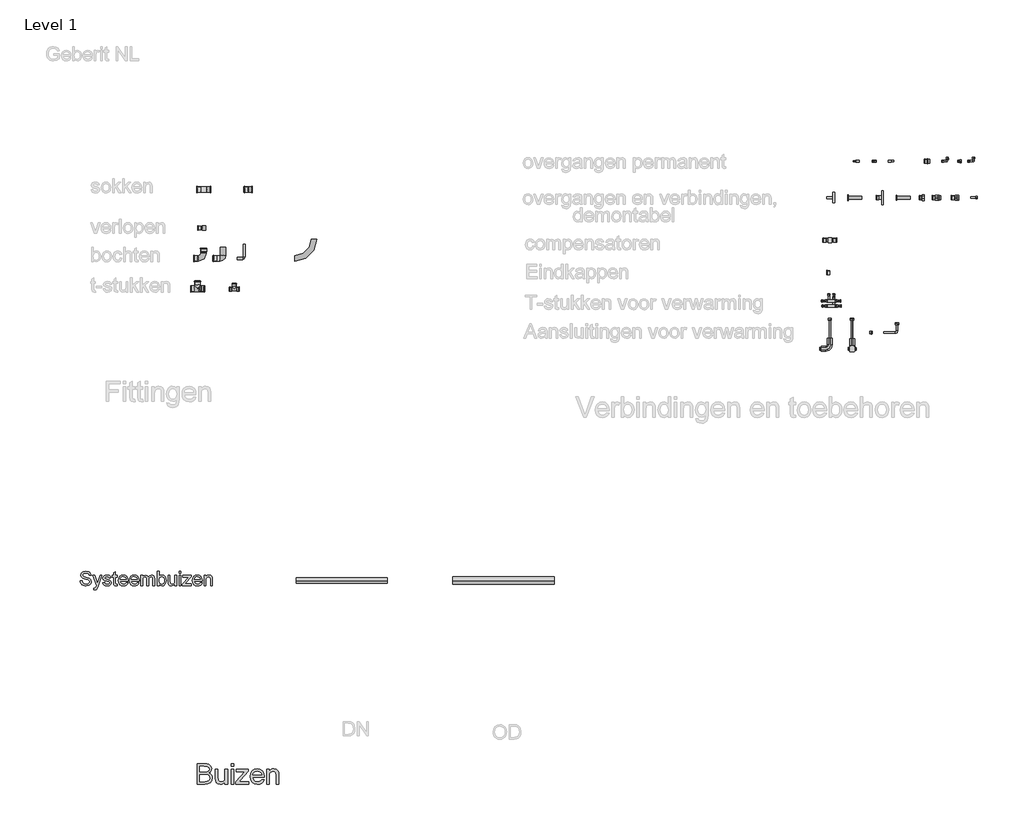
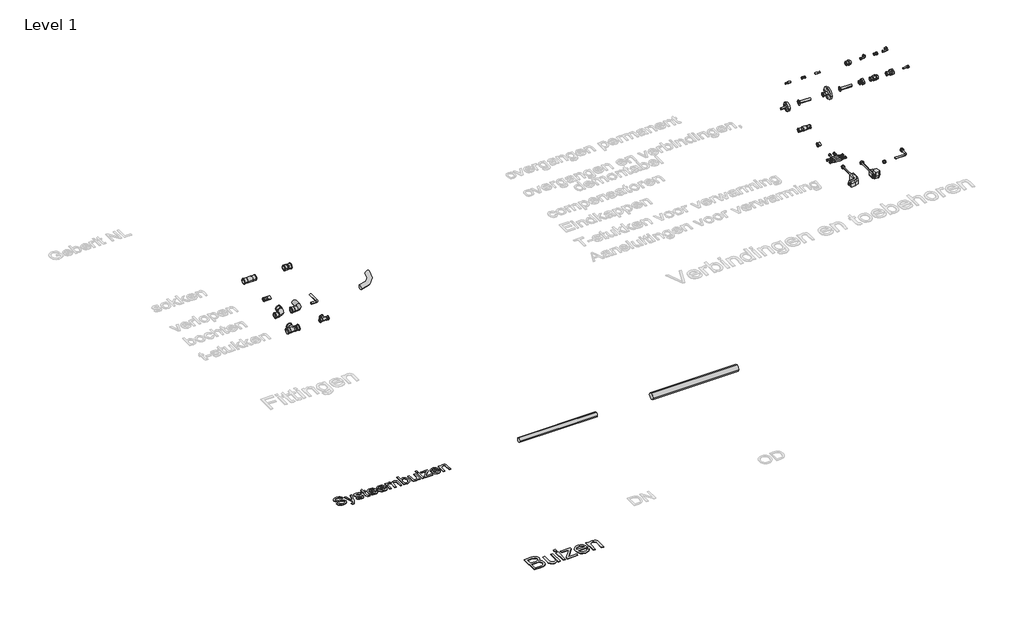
# One storey, part 1 of 8: 30 pipe fittings, 3 pipe segments, 2 proxies.
"""IFC4 building model written with IfcOpenShell, lengths in millimetres."""

from ifc_helpers import new_model, si_unit, point, frame, frame_2d, origin, origin_with_axes, place, context, project, spatial, polyline, circle_curve, trimmed, segment, composite_curve, outline, extrude, transform, mapped, element, save
from components import pipe_fitting_f131157e, pipe_fitting_ef4b92c7, pipe_fitting_1b7e7cd5, pipe_fitting_ae78dee2, pipe_fitting_d829275a, pipe_fitting_d16b05df, pipe_fitting_df6c98cd, pipe_fitting_f14cd62b, pipe_fitting_d1afa636, pipe_fitting_c2962759, pipe_fitting_58cf78d7, pipe_fitting_7e052b8f, pipe_fitting_bf6d9b78, pipe_fitting_812e0acf, pipe_fitting_fd989550, pipe_fitting_7fbc6128, pipe_fitting_85b2fc61, pipe_fitting_1523a521, pipe_fitting_2e0e9b0a, pipe_fitting_d5600d2a, pipe_fitting_86d36912, pipe_fitting_14417a9a, pipe_fitting_3b2257b0, pipe_fitting_caa33bd4, pipe_fitting_6f0e400b, pipe_fitting_93ddfdb1, pipe_fitting_02f2142c, pipe_fitting_28b5c15c, pipe_fitting_a9847738, pipe_fitting_fbca41b0, pipe_fitting_a43a226b, dn10_50_d12_54_8f782e33

model = new_model("IFC4")

# Units and contexts
model_context = context("Model", 3, world=origin())
ifc_project = project(units=[si_unit("LENGTHUNIT", "METRE", prefix="MILLI")], contexts=[model_context])

# Site, building, storey
site = spatial("IfcSite", under=ifc_project)
building = spatial("IfcBuilding", under=site)
storey = spatial("IfcBuildingStorey", under=building, Name="Level 1", Elevation=0.0)

# Proxies
placement = place(None, origin())
element("IfcBuildingElementProxy", 1, Name="medium", ObjectType="medium", at=placement, inside=storey, context=model_context, shape_type="SweptSolid", body=[
    extrude(outline(polyline([(-587.7503667, -500.1108057), (-587.7503667, -299.1981854), (-511.0837589, -299.1981854), (-489.9979892, -300.6758447), (-473.5352699, -305.1088227), (-460.9169175, -312.6074841), (-451.3642483, -323.2821933), (-445.3493777, -335.8392321), (-443.3444208, -348.984882), (-445.0305466, -361.0820683), (-450.0889241, -372.4557533), (-458.5563413, -382.4069613), (-470.4695866, -390.2367164), (-456.2386848, -397.6679327), (-445.7233911, -408.9741727), (-439.2302738, -423.4074097), (-437.0659014, -440.2196168), (-442.9765388, -467.2221553), (-457.6182422, -486.4501209), (-479.4704327, -496.6527149), (-511.6723701, -500.1108057), (-587.7503667, -500.1108057)]), holes=[polyline([(-562.6362891, -474.9967281), (-511.1328098, -474.9967281), (-492.4934554, -474.0157095), (-476.7235805, -468.5465305), (-466.2757319, -457.3874433), (-462.179979, -440.4648715), (-466.9869704, -420.9426003), (-473.2838839, -413.8853974), (-482.5606415, -409.2930038), (-513.5853564, -405.9330149), (-562.6362891, -405.9330149), (-562.6362891, -474.9967281)]), polyline([(-562.6362891, -380.8189374), (-516.7736671, -380.8189374), (-489.9918578, -378.6606963), (-473.8786264, -369.3655446), (-468.4584984, -353.0070585), (-473.5107444, -336.624047), (-487.9807696, -326.9364878), (-520.2562833, -324.3122629), (-562.6362891, -324.3122629), (-562.6362891, -380.8189374)])]), origin_with_axes(), (0.0, 0.0, 1.0), 5.0),
    extrude(outline(polyline([(-311.4955137, -500.1108057), (-311.4955137, -474.7514735), (-320.582199, -487.2196074), (-331.1649378, -496.1254174), (-343.2437299, -501.4689034), (-356.8185756, -503.2500653), (-380.4365996, -498.2468702), (-396.7215093, -485.6898314), (-404.2017765, -467.1976298), (-405.6733045, -443.8493859), (-405.6733045, -352.5656001), (-380.559227, -352.5656001), (-380.559227, -432.0281111), (-379.0386481, -457.6326979), (-375.3782222, -466.1736916), (-369.1058342, -472.6668088), (-350.3929034, -478.1359878), (-329.4236296, -472.5441815), (-321.066577, -465.9406997), (-315.5667412, -457.3138669), (-311.4955137, -429.3303098), (-311.4955137, -352.5656001), (-286.3814362, -352.5656001), (-286.3814362, -500.1108057), (-311.4955137, -500.1108057)])), origin_with_axes(), (0.0, 0.0, 1.0), 5.0),
    extrude(outline(polyline([(-251.8495796, -324.3122629), (-251.8495796, -299.1981854), (-226.7355021, -299.1981854), (-226.7355021, -324.3122629), (-251.8495796, -324.3122629)])), origin_with_axes(), (0.0, 0.0, 1.0), 5.0),
    extrude(outline(polyline([(-251.8495796, -500.1108057), (-251.8495796, -352.5656001), (-226.7355021, -352.5656001), (-226.7355021, -500.1108057), (-251.8495796, -500.1108057)])), origin_with_axes(), (0.0, 0.0, 1.0), 5.0),
    extrude(outline(polyline([(-204.7606842, -500.1108057), (-204.7606842, -476.4682561), (-118.0876862, -377.6796777), (-143.7413239, -377.6796777), (-198.4821648, -377.6796777), (-198.4821648, -352.5656001), (-82.3295562, -352.5656001), (-82.3295562, -373.9027558), (-159.1923677, -461.5567726), (-170.9645916, -474.9967281), (-141.9264394, -474.9967281), (-79.1902965, -474.9967281), (-79.1902965, -500.1108057), (-204.7606842, -500.1108057)])), origin_with_axes(), (0.0, 0.0, 1.0), 5.0),
    extrude(outline(polyline([(49.2250453, -456.16117), (73.8486135, -459.3004297), (64.976526, -477.8539449), (50.8192006, -491.7230962), (31.6954682, -500.3683231), (7.9241599, -503.2500653), (-21.5431879, -498.277527), (-44.2169815, -483.3599121), (-58.6747439, -459.4659766), (-63.4939981, -427.5644762), (-58.625693, -394.5899867), (-44.0207778, -369.9296303), (-21.6535525, -354.5521629), (6.5016829, -349.4263404), (33.7801328, -354.5399002), (55.577141, -369.8805794), (69.8693566, -394.4918848), (74.6334284, -427.4173234), (74.4862756, -434.1863521), (-38.3799205, -434.1863521), (-34.0327816, -452.9851221), (-23.9344209, -466.8052224), (-9.3601625, -475.3032964), (8.4146693, -478.1359878), (33.0382375, -472.887538), (42.1862364, -466.0817211), (49.2250453, -456.16117)]), holes=[polyline([(-38.3799205, -409.0722746), (49.5193509, -409.0722746), (46.1225738, -395.8039973), (39.4639097, -386.3126418), (24.8222062, -377.4834739), (6.403581, -374.540418), (-10.5251221, -376.8887314), (-24.523032, -383.9336716), (-34.2535108, -394.9149491), (-38.3799205, -409.0722746)])]), origin_with_axes(), (0.0, 0.0, 1.0), 5.0),
    extrude(outline(polyline([(99.7475059, -500.1108057), (99.7475059, -352.5656001), (124.8615835, -352.5656001), (124.8615835, -373.1669919), (133.5865181, -362.7804569), (144.0650236, -355.3615033), (156.2971, -350.9101311), (170.2827471, -349.4263404), (193.9988731, -354.2088064), (210.1856809, -366.7658451), (217.714999, -385.2335213), (219.0393742, -409.513733), (219.0393742, -500.1108057), (193.9252967, -500.1108057), (193.9252967, -412.8982473), (191.0312917, -390.6781748), (180.8041722, -378.9304764), (163.5627694, -374.540418), (148.8536209, -377.0052273), (136.3149762, -384.3996554), (127.7249317, -398.6857396), (124.8615835, -421.8255171), (124.8615835, -500.1108057), (99.7475059, -500.1108057)])), origin_with_axes(), (0.0, 0.0, 1.0), 5.0),
])
element("IfcBuildingElementProxy", 2, Name="small", ObjectType="small", at=placement, inside=storey, context=model_context, shape_type="SweptSolid", body=[
    extrude(outline(polyline([(-1740.3989931, 1506.8471385), (-1722.8191388, 1506.8471385), (-1717.1537561, 1489.2501164), (-1703.316488, 1478.1253648), (-1682.2343971, 1473.8849117), (-1663.8648228, 1477.0952953), (-1652.0018548, 1485.919558), (-1648.1047582, 1497.7138548), (-1651.0232887, 1508.6840959), (-1662.9720959, 1516.6671352), (-1688.5693251, 1523.3797553), (-1716.1236865, 1532.0495077), (-1731.0768634, 1545.1313914), (-1736.0040296, 1562.6082388), (-1729.9094512, 1582.5057496), (-1722.411403, 1590.6432993), (-1712.1064151, 1596.5490316), (-1686.0456546, 1601.3388552), (-1658.2337758, 1596.3258499), (-1647.5725556, 1590.1368485), (-1639.6925232, 1581.5958548), (-1634.7052696, 1571.2350715), (-1632.7223857, 1559.5867013), (-1650.30224, 1559.5867013), (-1653.5297913, 1570.0762433), (-1660.2595793, 1577.6472547), (-1670.774873, 1582.2310644), (-1685.3589416, 1583.7590009), (-1700.2863666, 1582.2482322), (-1710.5269751, 1577.715926), (-1716.4498752, 1571.0462255), (-1718.4241753, 1563.1232736), (-1712.8274639, 1550.9341168), (-1684.122858, 1541.1141201), (-1653.0147565, 1532.2898573), (-1636.0014405, 1518.0405613), (-1630.5249039, 1498.1602183), (-1632.100052, 1487.3230279), (-1636.8254962, 1477.1296309), (-1644.5080985, 1468.3568716), (-1654.9547209, 1461.7815941), (-1681.5476841, 1456.3050574), (-1698.771306, 1457.7814905), (-1712.9476386, 1462.2107897), (-1724.2397765, 1469.6101229), (-1732.8108138, 1479.9966579), (-1738.3131022, 1492.649346), (-1740.3989931, 1506.8471385)])), origin_with_axes(), (0.0, 0.0, 1.0), 5.0),
    extrude(outline(polyline([(-1606.3526043, 1418.9478671), (-1608.5500861, 1435.875344), (-1599.6228163, 1434.3302396), (-1591.2792527, 1436.270204), (-1586.1632404, 1441.6780693), (-1581.356249, 1454.6226104), (-1579.9828229, 1458.8802314), (-1617.3400132, 1561.7841831), (-1598.7987606, 1561.7841831), (-1578.9870889, 1504.4436428), (-1572.0856227, 1481.5074267), (-1565.1841565, 1501.7654619), (-1544.8231143, 1561.7841831), (-1526.4192044, 1561.7841831), (-1562.3686329, 1456.0303722), (-1571.7079305, 1433.0941561), (-1581.9056194, 1420.6989854), (-1595.6055449, 1416.7503853), (-1606.3526043, 1418.9478671)])), origin_with_axes(), (0.0, 0.0, 1.0), 5.0),
    extrude(outline(polyline([(-1518.4533329, 1489.2672842), (-1500.8734786, 1491.464766), (-1498.1008746, 1483.945258), (-1492.7359289, 1478.4172179), (-1474.0916694, 1473.8849117), (-1456.1684586, 1478.0395257), (-1450.3313976, 1487.7908511), (-1456.2027942, 1495.6880513), (-1474.2976833, 1500.7010566), (-1500.7704717, 1509.3021377), (-1512.3244188, 1519.3453161), (-1516.2558511, 1533.5259408), (-1513.096971, 1546.6249923), (-1504.4787222, 1556.6338352), (-1493.3024671, 1561.8356866), (-1478.1776121, 1563.9816649), (-1456.7865003, 1560.5309318), (-1443.1895818, 1551.1916342), (-1437.1465069, 1535.4144017), (-1454.7263611, 1533.2169199), (-1461.3359743, 1542.9167418), (-1476.8041859, 1546.4018106), (-1493.6286559, 1543.0712523), (-1498.6759968, 1535.3113947), (-1496.581522, 1530.1953824), (-1490.0234123, 1526.3154537), (-1474.8813894, 1522.5728675), (-1449.0781462, 1514.2979752), (-1437.0950034, 1504.9243419), (-1432.7515433, 1489.6449764), (-1437.8503877, 1472.8205065), (-1452.563215, 1460.6141819), (-1474.3320189, 1456.3050574), (-1492.0577997, 1458.3823644), (-1504.993757, 1464.6142854), (-1513.6291737, 1474.9321491), (-1518.4533329, 1489.2672842)])), origin_with_axes(), (0.0, 0.0, 1.0), 5.0),
    extrude(outline(polyline([(-1375.6170169, 1473.163863), (-1373.4195351, 1457.9875044), (-1386.5700902, 1456.3050574), (-1401.3000852, 1459.2235879), (-1408.647915, 1466.8804385), (-1410.7767254, 1486.8294528), (-1410.7767254, 1544.2043288), (-1423.9616162, 1544.2043288), (-1423.9616162, 1561.7841831), (-1410.7767254, 1561.7841831), (-1410.7767254, 1586.8835453), (-1393.1968712, 1597.2185769), (-1393.1968712, 1561.7841831), (-1375.6170169, 1561.7841831), (-1375.6170169, 1544.2043288), (-1393.1968712, 1544.2043288), (-1393.1968712, 1487.3444876), (-1392.2698085, 1478.2798753), (-1389.2654389, 1475.0694917), (-1383.2738675, 1473.8849117), (-1375.6170169, 1473.163863)])), origin_with_axes(), (0.0, 0.0, 1.0), 5.0),
    extrude(outline(polyline([(-1285.7262776, 1489.2672842), (-1268.4897799, 1487.0698024), (-1274.7002411, 1474.0823417), (-1284.6103689, 1464.3739359), (-1297.9969816, 1458.322277), (-1314.6368974, 1456.3050574), (-1335.2640408, 1459.7858342), (-1351.1356964, 1470.2281647), (-1361.2561301, 1486.9539196), (-1364.629608, 1509.2849698), (-1361.2217944, 1532.3671125), (-1350.9983538, 1549.629362), (-1335.3412961, 1560.3935891), (-1315.6326313, 1563.9816649), (-1296.5377163, 1560.4021731), (-1281.2798106, 1549.6636976), (-1271.2752597, 1532.4357838), (-1267.9404095, 1509.3879768), (-1268.0434164, 1504.6496567), (-1347.0497537, 1504.6496567), (-1344.0067565, 1491.4905177), (-1336.9379039, 1481.8164475), (-1326.7359231, 1475.8677957), (-1314.2935408, 1473.8849117), (-1297.0570431, 1477.5588266), (-1285.7262776, 1489.2672842)]), holes=[polyline([(-1347.0497537, 1522.229511), (-1285.5202637, 1522.229511), (-1292.5590726, 1538.1612539), (-1302.808265, 1544.3416714), (-1315.7013026, 1546.4018106), (-1327.5513948, 1544.7579912), (-1337.3499318, 1539.8265331), (-1344.1612669, 1532.1396388), (-1347.0497537, 1522.229511)])]), origin_with_axes(), (0.0, 0.0, 1.0), 5.0),
    extrude(outline(polyline([(-1178.0496702, 1489.2672842), (-1160.8131725, 1487.0698024), (-1167.0236337, 1474.0823417), (-1176.9337615, 1464.3739359), (-1190.3203742, 1458.322277), (-1206.9602899, 1456.3050574), (-1227.5874334, 1459.7858342), (-1243.4590889, 1470.2281647), (-1253.5795226, 1486.9539196), (-1256.9530005, 1509.2849698), (-1253.545187, 1532.3671125), (-1243.3217463, 1549.629362), (-1227.6646886, 1560.3935891), (-1207.9560239, 1563.9816649), (-1188.8611089, 1560.4021731), (-1173.6032032, 1549.6636976), (-1163.5986523, 1532.4357838), (-1160.263802, 1509.3879768), (-1160.366809, 1504.6496567), (-1239.3731463, 1504.6496567), (-1236.330149, 1491.4905177), (-1229.2612965, 1481.8164475), (-1219.0593156, 1475.8677957), (-1206.6169334, 1473.8849117), (-1189.3804357, 1477.5588266), (-1178.0496702, 1489.2672842)]), holes=[polyline([(-1239.3731463, 1522.229511), (-1177.8436563, 1522.229511), (-1184.8824651, 1538.1612539), (-1195.1316575, 1544.3416714), (-1208.0246952, 1546.4018106), (-1219.8747874, 1544.7579912), (-1229.6733243, 1539.8265331), (-1236.4846595, 1532.1396388), (-1239.3731463, 1522.229511)])]), origin_with_axes(), (0.0, 0.0, 1.0), 5.0),
    extrude(outline(polyline([(-1142.6839477, 1458.5025392), (-1142.6839477, 1561.7841831), (-1125.1040935, 1561.7841831), (-1125.1040935, 1544.7880349), (-1113.0179436, 1558.7111422), (-1095.8157815, 1563.9816649), (-1078.2015916, 1558.6081352), (-1068.5189375, 1543.5519514), (-1054.8018442, 1558.8742365), (-1037.4795073, 1563.9816649), (-1024.2645729, 1561.8571464), (-1014.4917877, 1555.4835908), (-1008.4530047, 1544.6893199), (-1006.4400771, 1529.3026555), (-1006.4400771, 1458.5025392), (-1024.0199314, 1458.5025392), (-1024.0199314, 1521.7488118), (-1025.6508749, 1536.4273034), (-1031.5566072, 1543.6549584), (-1041.5997856, 1546.4018106), (-1051.1236374, 1544.6421084), (-1058.8877869, 1539.3630018), (-1064.0510107, 1530.2039664), (-1065.7720853, 1516.8044778), (-1065.7720853, 1458.5025392), (-1083.3519396, 1458.5025392), (-1083.3519396, 1523.705944), (-1087.4207144, 1540.7364279), (-1092.7899521, 1544.9854649), (-1100.7601156, 1546.4018106), (-1113.773328, 1542.6248888), (-1122.4259125, 1531.5688086), (-1125.1040935, 1510.5897246), (-1125.1040935, 1458.5025392), (-1142.6839477, 1458.5025392)])), origin_with_axes(), (0.0, 0.0, 1.0), 5.0),
    extrude(outline(polyline([(-962.4904414, 1458.5025392), (-980.0702957, 1458.5025392), (-980.0702957, 1599.1413734), (-962.4904414, 1599.1413734), (-962.4904414, 1546.9855167), (-950.1811098, 1559.7326278), (-934.8845765, 1563.9816649), (-917.2703866, 1560.1532396), (-903.6047967, 1549.3890124), (-895.2097296, 1532.6503816), (-892.1710243, 1511.6884655), (-895.3170285, 1488.2200468), (-904.7550411, 1470.7603673), (-918.6051851, 1459.9188849), (-934.9875834, 1456.3050574), (-950.6188894, 1460.9661223), (-962.4904414, 1474.9493169), (-962.4904414, 1458.5025392)]), holes=[polyline([(-962.4904414, 1510.8644099), (-961.2886936, 1496.2030861), (-957.68345, 1486.2800824), (-948.4729111, 1476.9837044), (-936.4983522, 1473.8849117), (-926.3521667, 1476.1682326), (-917.6824144, 1483.0181954), (-911.7337625, 1494.3918804), (-909.7508786, 1510.2463681), (-911.6522154, 1526.3326215), (-917.3562257, 1537.5775478), (-925.7555848, 1544.1957449), (-935.7429678, 1546.4018106), (-945.8891532, 1544.1184897), (-954.5589056, 1537.2685269), (-960.5075574, 1526.1008558), (-962.4904414, 1510.8644099)])]), origin_with_axes(), (0.0, 0.0, 1.0), 5.0),
    extrude(outline(polyline([(-806.4692347, 1458.5025392), (-806.4692347, 1476.2540718), (-820.2378315, 1461.292311), (-838.195378, 1456.3050574), (-854.7279948, 1459.807294), (-866.1274316, 1468.5972212), (-871.3636187, 1481.5417623), (-872.3936882, 1497.8855331), (-872.3936882, 1561.7841831), (-854.813834, 1561.7841831), (-854.813834, 1506.1604254), (-853.7494287, 1488.2372146), (-846.796459, 1477.713337), (-833.6974074, 1473.8849117), (-819.0189158, 1477.7991761), (-809.3190939, 1488.4603964), (-806.4692347, 1508.0488863), (-806.4692347, 1561.7841831), (-788.8893804, 1561.7841831), (-788.8893804, 1458.5025392), (-806.4692347, 1458.5025392)])), origin_with_axes(), (0.0, 0.0, 1.0), 5.0),
    extrude(outline(polyline([(-764.7170808, 1581.5615192), (-764.7170808, 1599.1413734), (-747.1372265, 1599.1413734), (-747.1372265, 1581.5615192), (-764.7170808, 1581.5615192)])), origin_with_axes(), (0.0, 0.0, 1.0), 5.0),
    extrude(outline(polyline([(-764.7170808, 1458.5025392), (-764.7170808, 1561.7841831), (-747.1372265, 1561.7841831), (-747.1372265, 1458.5025392), (-764.7170808, 1458.5025392)])), origin_with_axes(), (0.0, 0.0, 1.0), 5.0),
    extrude(outline(polyline([(-731.754854, 1458.5025392), (-731.754854, 1475.0523239), (-671.0837554, 1544.2043288), (-689.0413018, 1544.2043288), (-727.3598905, 1544.2043288), (-727.3598905, 1561.7841831), (-646.0530644, 1561.7841831), (-646.0530644, 1546.8481741), (-699.8570325, 1485.4903624), (-708.0975892, 1476.0823935), (-687.7708827, 1476.0823935), (-643.8555826, 1476.0823935), (-643.8555826, 1458.5025392), (-731.754854, 1458.5025392)])), origin_with_axes(), (0.0, 0.0, 1.0), 5.0),
    extrude(outline(polyline([(-553.9648434, 1489.2672842), (-536.7283457, 1487.0698024), (-542.9388069, 1474.0823417), (-552.8489347, 1464.3739359), (-566.2355473, 1458.322277), (-582.8754631, 1456.3050574), (-603.5026066, 1459.7858342), (-619.3742621, 1470.2281647), (-629.4946958, 1486.9539196), (-632.8681737, 1509.2849698), (-629.4603602, 1532.3671125), (-619.2369195, 1549.629362), (-603.5798618, 1560.3935891), (-583.8711971, 1563.9816649), (-564.7762821, 1560.4021731), (-549.5183764, 1549.6636976), (-539.5138255, 1532.4357838), (-536.1789752, 1509.3879768), (-536.2819822, 1504.6496567), (-615.2883194, 1504.6496567), (-612.2453222, 1491.4905177), (-605.1764697, 1481.8164475), (-594.9744888, 1475.8677957), (-582.5321066, 1473.8849117), (-565.2956089, 1477.5588266), (-553.9648434, 1489.2672842)]), holes=[polyline([(-615.2883194, 1522.229511), (-553.7588295, 1522.229511), (-560.7976383, 1538.1612539), (-571.0468307, 1544.3416714), (-583.9398684, 1546.4018106), (-595.7899606, 1544.7579912), (-605.5884975, 1539.8265331), (-612.3998326, 1532.1396388), (-615.2883194, 1522.229511)])]), origin_with_axes(), (0.0, 0.0, 1.0), 5.0),
    extrude(outline(polyline([(-518.5991209, 1458.5025392), (-518.5991209, 1561.7841831), (-501.0192667, 1561.7841831), (-501.0192667, 1547.3632089), (-487.5768585, 1559.8270509), (-469.2244521, 1563.9816649), (-452.6231639, 1560.6339387), (-441.2923985, 1551.8440116), (-436.0218757, 1538.9166383), (-435.0948131, 1521.9204901), (-435.0948131, 1458.5025392), (-452.6746674, 1458.5025392), (-452.6746674, 1519.55133), (-454.7004709, 1535.1053808), (-461.8594545, 1543.3287697), (-473.9284365, 1546.4018106), (-484.2248404, 1544.676444), (-493.0018917, 1539.5003444), (-499.0149229, 1529.5000855), (-501.0192667, 1513.3022412), (-501.0192667, 1458.5025392), (-518.5991209, 1458.5025392)])), origin_with_axes(), (0.0, 0.0, 1.0), 5.0),
])

# Pipe fittings
pipe_fitting_shape = pipe_fitting_f131157e(model_context)
element("IfcPipeFitting", 3, ObjectType="NLRS_50_PIF_UN_Geberit Mapress radiatoraansluiting 90° met isolatiebox en schroefaansluiting voor Euroconus_PRO_1079240 : DN12-12-G3/4\" / d15-15-G3/4\" - OD", at=placement, inside=storey, context=model_context, shape_type="MappedRepresentation", body=[
    mapped(pipe_fitting_shape, transform((5661.662055, 3798.3428958, 0.0), x_axis=(1.0, 0.0, 0.0), y_axis=(0.0, 1.0, 0.0), z_axis=(0.0, 0.0, 1.0))),
])
pipe_fitting_2_shape = pipe_fitting_ef4b92c7(model_context)
element("IfcPipeFitting", 4, ObjectType="NLRS_50_PIF_UN_Geberit Mapress rvs axiale compensator met persmoffen_PRO_247182 : DN12-100 / d15-108 - OD", at=placement, inside=storey, context=model_context, shape_type="MappedRepresentation", body=[
    mapped(pipe_fitting_2_shape, transform((5661.662055, 4870.8053825, 0.0), x_axis=(1.0, 0.0, 0.0), y_axis=(0.0, 1.0, 0.0), z_axis=(0.0, 0.0, 1.0))),
])
pipe_fitting_3_shape = pipe_fitting_1b7e7cd5(model_context)
element("IfcPipeFitting", 5, ObjectType="NLRS_50_PIF_UN_Geberit Mapress Therm 3-d overgangskoppeling met binnendraad_PRO_3208079 : DN12-50-Rp2\" / d15-54-Rp2\" - OD", at=placement, inside=storey, context=model_context, shape_type="MappedRepresentation", body=[
    mapped(pipe_fitting_3_shape, transform((6900.6410297, 5290.8053825, 0.0), x_axis=(1.0, 0.0, 0.0), y_axis=(0.0, 1.0, 0.0), z_axis=(0.0, 0.0, 1.0))),
])
pipe_fitting_4_shape = pipe_fitting_ae78dee2(model_context)
element("IfcPipeFitting", 6, ObjectType="NLRS_50_PIF_UN_Geberit Mapress Therm 3-d overgangskoppeling met buitendraad_PRO_3208083 : DN12-50-R2\" / d15-54-R2\" - OD", at=placement, inside=storey, context=model_context, shape_type="MappedRepresentation", body=[
    mapped(pipe_fitting_4_shape, transform((6716.651259, 5290.8053825, 0.0), x_axis=(1.0, 0.0, 0.0), y_axis=(0.0, 1.0, 0.0), z_axis=(0.0, 0.0, 1.0))),
])
pipe_fitting_5_shape = pipe_fitting_d829275a(model_context)
element("IfcPipeFitting", 7, ObjectType="NLRS_50_PIF_UN_Geberit Mapress Therm flens PN 10_16, met persmof_PRO_3208089 : DN12-100 / d15-108 - OD", at=placement, inside=storey, context=model_context, shape_type="MappedRepresentation", body=[
    mapped(pipe_fitting_5_shape, transform((6181.662055, 5290.8053825, 0.0), x_axis=(1.0, 0.0, 0.0), y_axis=(0.0, 1.0, 0.0), z_axis=(0.0, 0.0, 1.0))),
])
pipe_fitting_6_shape = pipe_fitting_d16b05df(model_context)
element("IfcPipeFitting", 8, ObjectType="NLRS_50_PIF_UN_Geberit Mapress Therm overgang met buitendraad_PRO_3208039 : DN12-100-R3\" / d15-108-R3\" - OD", at=placement, inside=storey, context=model_context, shape_type="MappedRepresentation", body=[
    mapped(pipe_fitting_6_shape, transform((6621.662055, 5650.8053825, 0.0), x_axis=(1.0, 0.0, 0.0), y_axis=(0.0, 1.0, 0.0), z_axis=(0.0, 0.0, 1.0))),
])
pipe_fitting_7_shape = pipe_fitting_df6c98cd(model_context)
element("IfcPipeFitting", 9, ObjectType="NLRS_50_PIF_UN_Geberit Mapress Therm overgang met wartel_PRO_3208096 : DN12-80-G3.1/2\" / d15-89-G3.1/2\" - OD", at=placement, inside=storey, context=model_context, shape_type="MappedRepresentation", body=[
    mapped(pipe_fitting_7_shape, transform((6568.412055, 5290.8053825, 0.0), x_axis=(1.0, 0.0, 0.0), y_axis=(0.0, 1.0, 0.0), z_axis=(0.0, 0.0, 1.0))),
])
pipe_fitting_8_shape = pipe_fitting_f14cd62b(model_context)
element("IfcPipeFitting", 10, ObjectType="NLRS_50_PIF_UN_Geberit Mapress Therm overschuifsok_PRO_3207553 : DN12-100 / d15-108 - OD", at=placement, inside=storey, context=model_context, shape_type="MappedRepresentation", body=[
    mapped(pipe_fitting_8_shape, transform((-522.2410764, 5370.8053825, 0.0), x_axis=(1.0, 0.0, 0.0), y_axis=(0.0, 1.0, 0.0), z_axis=(0.0, 0.0, 1.0))),
])
pipe_fitting_9_shape = pipe_fitting_d1afa636(model_context)
element("IfcPipeFitting", 11, ObjectType="NLRS_50_PIF_UN_Geberit Mapress Therm sok_PRO_3207533 : DN10-100 / d12-108 - OD", at=placement, inside=storey, context=model_context, shape_type="MappedRepresentation", body=[
    mapped(pipe_fitting_9_shape, transform((-82.2410764, 5370.8053825, 0.0), x_axis=(1.0, 0.0, 0.0), y_axis=(0.0, 1.0, 0.0), z_axis=(0.0, 0.0, 1.0))),
])
pipe_fitting_10_shape = pipe_fitting_c2962759(model_context)
element("IfcPipeFitting", 12, ObjectType="NLRS_50_PIF_UN_Geberit Mapress Therm verloop met insteekeinde_PRO_3207557 : DN10-100 / d12-108 - OD", at=placement, inside=storey, context=model_context, shape_type="MappedRepresentation", body=[
    mapped(pipe_fitting_10_shape, transform((-501.8713696, 4990.8053825, 0.0), x_axis=(-1.0, 0.0, 0.0), y_axis=(0.0, -1.0, 0.0), z_axis=(0.0, 0.0, 1.0))),
])
pipe_fitting_11_shape = pipe_fitting_58cf78d7(model_context)
element("IfcPipeFitting", 13, ObjectType="NLRS_50_PIF_UN_Geberit Mepla overgang naar Geberit Mapress, met insteekeinde_PRO_102866 : DN12-50 / d16-63 - OD", at=placement, inside=storey, context=model_context, shape_type="MappedRepresentation", body=[
    mapped(pipe_fitting_11_shape, transform((5921.662055, 5650.8053825, 0.0), x_axis=(1.0, 0.0, 0.0), y_axis=(0.0, 1.0, 0.0), z_axis=(0.0, 0.0, 1.0))),
])
pipe_fitting_12_shape = pipe_fitting_7e052b8f(model_context)
element("IfcPipeFitting", 14, ObjectType="NLRS_50_PIF_UN_Geberit PushFit overgang naar Geberit Mapress, met insteekeinden_PRO_102728 : DN12-20 / d16-25 - OD", at=placement, inside=storey, context=model_context, shape_type="MappedRepresentation", body=[
    mapped(pipe_fitting_12_shape, transform((6266.662055, 5650.8053825, 0.0), x_axis=(1.0, 0.0, 0.0), y_axis=(0.0, 1.0, 0.0), z_axis=(0.0, 0.0, 1.0))),
])
pipe_fitting_13_shape = pipe_fitting_bf6d9b78(model_context)
element("IfcPipeFitting", 15, ObjectType="NLRS_50_PIF_UN_Geberit radiatoraansluitbocht 90° met schroefaansluiting voor Euroconus_PRO_1079215 : DN12-12-G3/4'' / d15-15-G3/4'' - OD", at=placement, inside=storey, context=model_context, shape_type="MappedRepresentation", body=[
    mapped(pipe_fitting_13_shape, transform((6325.4745579, 3957.5227633, 0.0), x_axis=(1.0, 0.0, 0.0), y_axis=(0.0, 1.0, 0.0), z_axis=(0.0, 0.0, 1.0))),
])
pipe_fitting_14_shape = pipe_fitting_812e0acf(model_context)
element("IfcPipeFitting", 16, ObjectType="NLRS_50_PIF_UN_Geberit Mapress rvs pasbocht_PRO_103033 : DN12-100 / d15-108 - OD", at=placement, inside=storey, context=model_context, shape_type="MappedRepresentation", body=[
    mapped(pipe_fitting_14_shape, transform((-122.2410764, 4690.8053825, 0.0), x_axis=(1.0, 0.0, 0.0), y_axis=(0.0, 1.0, 0.0), z_axis=(0.0, 0.0, 1.0))),
])
pipe_fitting_15_shape = pipe_fitting_fd989550(model_context)
element("IfcPipeFitting", 17, ObjectType="NLRS_50_PIF_UN_Geberit Mapress Therm bocht met insteekeinde_PRO_3207565 : DN12-100 / d15-108 - OD", at=placement, inside=storey, context=model_context, shape_type="MappedRepresentation", body=[
    mapped(pipe_fitting_15_shape, transform((-330.0570667, 4690.8053825, 0.0), x_axis=(1.0, 0.0, 0.0), y_axis=(0.0, 1.0, 0.0), z_axis=(0.0, 0.0, 1.0))),
])
pipe_fitting_16_shape = pipe_fitting_7fbc6128(model_context)
element("IfcPipeFitting", 18, ObjectType="NLRS_50_PIF_UN_Geberit Mapress Therm bocht_PRO_3207561 : DN10-100 / d12-108 - OD", at=placement, inside=storey, context=model_context, shape_type="MappedRepresentation", body=[
    mapped(pipe_fitting_16_shape, transform((-522.2410764, 4690.8053825, 0.0), x_axis=(1.0, 0.0, 0.0), y_axis=(0.0, 1.0, 0.0), z_axis=(0.0, 0.0, 1.0))),
])
pipe_fitting_17_shape = pipe_fitting_85b2fc61(model_context)
element("IfcPipeFitting", 19, ObjectType="NLRS_50_PIF_UN_Geberit Mapress Therm overgangsknie 90° met binnendraad_PRO_3208051 : DN12-32-Rp1.1/4\" / d15-35-Rp1.1/4\" - OD", at=placement, inside=storey, context=model_context, shape_type="MappedRepresentation", body=[
    mapped(pipe_fitting_17_shape, transform((7081.662055, 5650.8053825, 0.0), x_axis=(1.0, 0.0, 0.0), y_axis=(0.0, 1.0, 0.0), z_axis=(0.0, 0.0, 1.0))),
])
pipe_fitting_18_shape = pipe_fitting_1523a521(model_context)
element("IfcPipeFitting", 20, ObjectType="NLRS_50_PIF_UN_Geberit Mapress Therm overgangsknie 90° met buitendraad_PRO_3208047 : DN12-50 / R½\"-2\" / d15-54 / R½\"-2\" - OD", at=placement, inside=storey, context=model_context, shape_type="MappedRepresentation", body=[
    mapped(pipe_fitting_18_shape, transform((6821.662055, 5650.8053825, 0.0), x_axis=(1.0, 0.0, 0.0), y_axis=(0.0, 1.0, 0.0), z_axis=(0.0, 0.0, 1.0))),
])
pipe_fitting_19_shape = pipe_fitting_2e0e9b0a(model_context)
element("IfcPipeFitting", 21, ObjectType="NLRS_50_PIF_UN_Geberit Mapress Therm kap_PRO_3207990 : DN12-100 / d15-108 - OD", at=placement, inside=storey, context=model_context, shape_type="MappedRepresentation", body=[
    mapped(pipe_fitting_19_shape, transform((5661.662055, 4550.8053825, 0.0), x_axis=(1.0, 0.0, 0.0), y_axis=(0.0, 1.0, 0.0), z_axis=(0.0, 0.0, 1.0))),
])
pipe_fitting_20_shape = pipe_fitting_d5600d2a(model_context)
element("IfcPipeFitting", 22, ObjectType="NLRS_50_PIF_UN_Geberit Mapress radiatoraansluit-T-stuk met isolatiebox en schroefaansluiting voor Euroconus_PRO_1079243 : DN12-15-G3/4\" / d15-18-G3/4\" - OD", at=placement, inside=storey, context=model_context, shape_type="MappedRepresentation", body=[
    mapped(pipe_fitting_20_shape, transform((5881.0818546, 3798.3428958, 0.0), x_axis=(1.0, 0.0, 0.0), y_axis=(0.0, 1.0, 0.0), z_axis=(0.0, 0.0, 1.0))),
])
pipe_fitting_21_shape = pipe_fitting_86d36912(model_context)
element("IfcPipeFitting", 23, ObjectType="NLRS_50_PIF_UN_Geberit Mapress Therm gelijkzijdig T-stuk_PRO_3207571 : DN12-100 / d15-108 - OD", at=placement, inside=storey, context=model_context, shape_type="MappedRepresentation", body=[
    mapped(pipe_fitting_21_shape, transform((-219.5313284, 4387.2979606, 0.0), x_axis=(1.0, 0.0, 0.0), y_axis=(0.0, 1.0, 0.0), z_axis=(0.0, 0.0, 1.0))),
])
pipe_fitting_22_shape = pipe_fitting_14417a9a(model_context)
element("IfcPipeFitting", 24, ObjectType="NLRS_50_PIF_UN_Geberit Mapress Therm T-stuk : DN12-100 / d15-108 - OD", at=placement, inside=storey, context=model_context, shape_type="MappedRepresentation", body=[
    mapped(pipe_fitting_22_shape, transform((-582.2410764, 4390.8053825, 0.0), x_axis=(1.0, 0.0, 0.0), y_axis=(0.0, 1.0, 0.0), z_axis=(0.0, 0.0, 1.0))),
])
pipe_fitting_23_shape = pipe_fitting_3b2257b0(model_context)
pipe_fitting_24_shape = pipe_fitting_caa33bd4(model_context)
element("IfcPipeFitting", 25, ObjectType="NLRS_50_PIF_UN_Geberit Mapress kruising-T-stuk met isolatiebox_PRO_103301 : DN10-20 / d12-22 - OD", at=placement, inside=storey, context=model_context, shape_type="MappedRepresentation", body=[
    mapped(pipe_fitting_23_shape, transform((5701.662055, 4270.8053825, 0.0), x_axis=(1.0, 0.0, 0.0), y_axis=(0.0, 1.0, 0.0), z_axis=(0.0, 0.0, 1.0))),
    mapped(pipe_fitting_24_shape, transform((5701.662055, 4270.8053825, 0.0), x_axis=(1.0, 0.0, 0.0), y_axis=(0.0, 1.0, 0.0), z_axis=(0.0, 0.0, 1.0))),
])
pipe_fitting_25_shape = pipe_fitting_6f0e400b(model_context)
element("IfcPipeFitting", 26, ObjectType="NLRS_50_PIF_UN_Geberit Mapress koper verloopsok_PRO_103281 : DN12-15 / d15-18 - OD", at=placement, inside=storey, context=model_context, shape_type="MappedRepresentation", body=[
    mapped(pipe_fitting_25_shape, transform((6101.662055, 5650.8053825, 0.0), x_axis=(1.0, 0.0, 0.0), y_axis=(0.0, 1.0, 0.0), z_axis=(0.0, 0.0, 1.0))),
])
pipe_fitting_26_shape = pipe_fitting_93ddfdb1(model_context)
element("IfcPipeFitting", 27, ObjectType="NLRS_50_PIF_UN_Geberit Mapress Therm overgang met binnendraad_PRO_3208043 : DN10-50-Rp2\" / d12-54-Rp2\" - OD", at=placement, inside=storey, context=model_context, shape_type="MappedRepresentation", body=[
    mapped(pipe_fitting_26_shape, transform((6941.662055, 5650.8053825, 0.0), x_axis=(1.0, 0.0, 0.0), y_axis=(0.0, 1.0, 0.0), z_axis=(0.0, 0.0, 1.0))),
])
pipe_fitting_27_shape = pipe_fitting_02f2142c(model_context)
element("IfcPipeFitting", 28, ObjectType="NLRS_50_PIF_UN_Geberit Mapress rvs flens PN 10_16, met insteekeinde_PRO_332665 : DN50-100 / d54-108 - OD", at=placement, inside=storey, context=model_context, shape_type="MappedRepresentation", body=[
    mapped(pipe_fitting_27_shape, transform((5701.662055, 5290.8053825, 0.0), x_axis=(1.0, 0.0, 0.0), y_axis=(0.0, 1.0, 0.0), z_axis=(0.0, 0.0, 1.0))),
])
pipe_fitting_28_shape = pipe_fitting_28b5c15c(model_context)
element("IfcPipeFitting", 29, ObjectType="NLRS_50_PIF_UN_Geberit Mapress rvs flenskraag met insteekeinde, voor losse flens PN 10_16_PRO_103074 : DN20-100 / d22-108 - OD", at=placement, inside=storey, context=model_context, shape_type="MappedRepresentation", body=[
    mapped(pipe_fitting_28_shape, transform((5841.662055, 5290.8053825, 0.0), x_axis=(1.0, 0.0, 0.0), y_axis=(0.0, 1.0, 0.0), z_axis=(0.0, 0.0, 1.0))),
])
pipe_fitting_29_shape = pipe_fitting_a9847738(model_context)
element("IfcPipeFitting", 30, ObjectType="NLRS_50_PIF_UN_Geberit Mapress overgang met klemring-schroefverbinding voor ribbelbuizen, NPW, insteekeinde_PRO_144536 : DN12-25 / d15-28 - OD", at=placement, inside=storey, context=model_context, shape_type="MappedRepresentation", body=[
    mapped(pipe_fitting_29_shape, transform((7101.662055, 5290.8053825, 0.0), x_axis=(1.0, 0.0, 0.0), y_axis=(0.0, 1.0, 0.0), z_axis=(0.0, 0.0, 1.0))),
])
pipe_fitting_30_shape = pipe_fitting_fbca41b0(model_context)
element("IfcPipeFitting", 31, ObjectType="NLRS_50_PIF_UN_Geberit Mapress rvs flenskraag met insteekeinde, voor losse flens PN 6_PRO_103073 : DN20-100 / d22-108 - OD", at=placement, inside=storey, context=model_context, shape_type="MappedRepresentation", body=[
    mapped(pipe_fitting_30_shape, transform((6321.662055, 5290.8053825, 0.0), x_axis=(1.0, 0.0, 0.0), y_axis=(0.0, 1.0, 0.0), z_axis=(0.0, 0.0, 1.0))),
])
pipe_fitting_31_shape = pipe_fitting_a43a226b(model_context)
element("IfcPipeFitting", 32, ObjectType="NLRS_50_PIF_UN_Geberit adapter Euroconus, met buitendraad_PRO_102948 : DN15-20/ G3/4'' / d20-26/ G3/4'' - OD", at=placement, inside=storey, context=model_context, shape_type="MappedRepresentation", body=[
    mapped(pipe_fitting_31_shape, transform((6069.4073665, 3957.5227633, 0.0), x_axis=(1.0, 0.0, 0.0), y_axis=(0.0, 1.0, 0.0), z_axis=(0.0, 0.0, 1.0))),
])

# Pipe segments
element("IfcPipeSegment", 33, ObjectType="NLRS_50_PI_Geberit Mapress Therm systeembuis CrTi_PRO_3207998 - OD", at=placement, inside=storey, context=model_context, shape_type="SweptSolid", body=[
    extrude(outline(composite_curve([segment(trimmed(circle_curve(frame_2d((1510.0797535, 40.0)), 38.05), [point((1472.0297535, 40.0))], [point((1510.0797535, 78.05))], False, "CARTESIAN"), True, "CONTINUOUS"), segment(trimmed(circle_curve(frame_2d((1510.0797535, 40.0)), 38.05), [point((1510.0797535, 78.05))], [point((1548.1297535, 40.0))], False, "CARTESIAN"), True, "CONTINUOUS"), segment(trimmed(circle_curve(frame_2d((1510.0797535, 40.0)), 38.05), [point((1548.1297535, 40.0))], [point((1510.0797535, 1.95))], False, "CARTESIAN"), True, "CONTINUOUS"), segment(trimmed(circle_curve(frame_2d((1510.0797535, 40.0)), 38.05), [point((1510.0797535, 1.95))], [point((1472.0297535, 40.0))], False, "CARTESIAN"), True, "CONTINUOUS")], self_intersect=False)), frame((1937.7589236, 0.0, 0.0), z_axis=(1.0, 0.0, 0.0), x_axis=(0.0, 1.0, 0.0)), (0.0, 0.0, 1.0), 1000.0),
])
element("IfcPipeSegment", 34, ObjectType="NLRS_50_PI_Geberit Mapress Therm systeembuis CrTi_PRO_3207998 - DN", at=placement, inside=storey, context=model_context, shape_type="SweptSolid", body=[
    extrude(outline(composite_curve([segment(trimmed(circle_curve(frame_2d((1510.0797535, 40.0)), 27.0), [point((1483.0797535, 40.0))], [point((1510.0797535, 67.0))], False, "CARTESIAN"), True, "CONTINUOUS"), segment(trimmed(circle_curve(frame_2d((1510.0797535, 40.0)), 27.0), [point((1510.0797535, 67.0))], [point((1537.0797535, 40.0))], False, "CARTESIAN"), True, "CONTINUOUS"), segment(trimmed(circle_curve(frame_2d((1510.0797535, 40.0)), 27.0), [point((1537.0797535, 40.0))], [point((1510.0797535, 13.0))], False, "CARTESIAN"), True, "CONTINUOUS"), segment(trimmed(circle_curve(frame_2d((1510.0797535, 40.0)), 27.0), [point((1510.0797535, 13.0))], [point((1483.0797535, 40.0))], False, "CARTESIAN"), True, "CONTINUOUS")], self_intersect=False)), frame((392.6075811, 0.0, 0.0), z_axis=(1.0, 0.0, 0.0), x_axis=(0.0, 1.0, 0.0)), (0.0, 0.0, 1.0), 900.0),
])
dn10_50_d12_54_shape = dn10_50_d12_54_8f782e33(model_context)
element("IfcPipeSegment", 35, ObjectType="NLRS_50_PIF_UN_Mapress Therm gebogen bocht_geb : DN10-50 / d12-54", at=placement, inside=storey, context=model_context, shape_type="MappedRepresentation", body=[
    mapped(dn10_50_d12_54_shape, transform((568.2334783, 4690.8053825, 0.0), x_axis=(1.0, 0.0, 0.0), y_axis=(0.0, 1.0, 0.0), z_axis=(0.0, 0.0, 1.0))),
])

save(model, "model.ifc")
